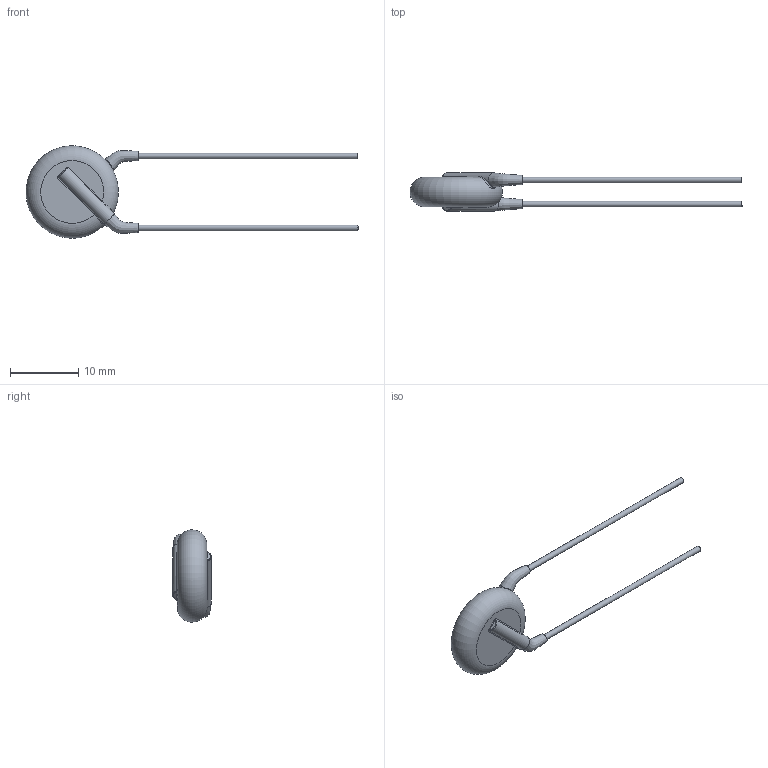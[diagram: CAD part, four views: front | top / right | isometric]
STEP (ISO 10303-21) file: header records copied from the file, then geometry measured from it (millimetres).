
FILE_DESCRIPTION(/* description */ (''),/* implementation_level */ '2;1');
FILE_NAME(/* name */ 'I:\Marketing\M6t1\3D-Models\Zchng-Werk-3\Upload for homepage\Ceramite\Y5U\440LD39-R\440LD39-R.stp',/* time_stamp */ '2016-11-10T14:43:38+01:00',/* author */ ('sheinrich'),/* organization */ (''),/* preprocessor_version */ 'ST-DEVELOPER v16.1',/* originating_system */ 'Autodesk Inventor 2016',/* authorisation */ '');
FILE_SCHEMA (('AUTOMOTIVE_DESIGN { 1 0 10303 214 3 1 1 }'));
Length unit declared in the file: millimetre
Products named in the file (1): 440LD39-R
Bounding box: 48.5 x 5.6 x 13.49 mm (x, y, z)
Volume: 615 mm3; surface area: 616.9 mm2
Topology: 1 solids, 1 shells, 39 faces, 84 edges, 45 vertices
Faces by surface type: bspline 12, cylinder 12, plane 8, torus 7
Full cylindrical faces by diameter (mm): 0.81 x2
Entity records: 1813 total; most frequent: CARTESIAN_POINT 996, ORIENTED_EDGE 152, DIRECTION 144, EDGE_CURVE 76, AXIS2_PLACEMENT_3D 66, EDGE_LOOP 44, VERTEX_POINT 44, STYLED_ITEM 40
